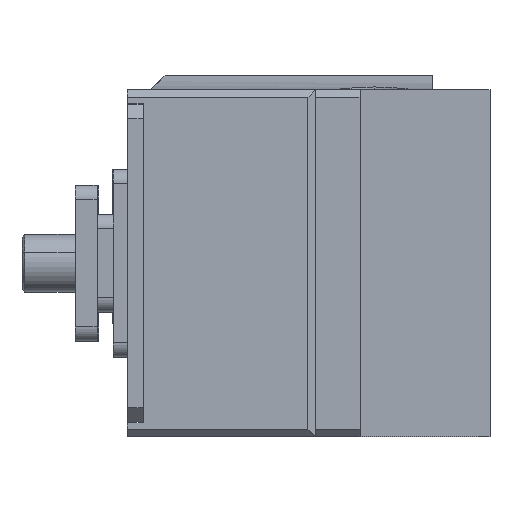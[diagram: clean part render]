
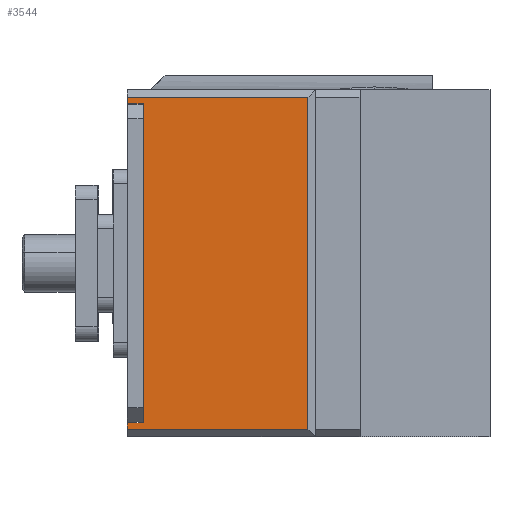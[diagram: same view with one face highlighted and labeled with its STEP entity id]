
A CAD part, left-side view. The second image highlights one B-rep face of the part: STEP entity #3544.
In plain terms, the highlighted planar face has unit normal (-1, 0, 0).
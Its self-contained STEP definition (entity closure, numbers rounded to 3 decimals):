
#584 = CARTESIAN_POINT ( 'NONE',  ( -3.75, 11.05, 13. ) ) ;
#1189 = ORIENTED_EDGE ( 'NONE', *, *, #9586, .F. ) ;
#1351 = CARTESIAN_POINT ( 'NONE',  ( -3.75, 11.05, 11.9 ) ) ;
#1928 = DIRECTION ( 'NONE',  ( 0., 0., -1. ) ) ;
#2066 = EDGE_LOOP ( 'NONE', ( #11386, #5757, #16089, #10275, #1189, #9652, #10346, #20484 ) ) ;
#2248 = CARTESIAN_POINT ( 'NONE',  ( -3.75, -11.05, 13. ) ) ;
#2361 = VERTEX_POINT ( 'NONE', #13925 ) ;
#3071 = FACE_OUTER_BOUND ( 'NONE', #2066, .T. ) ;
#3227 = VECTOR ( 'NONE', #11893, 1000. ) ;
#3544 = ADVANCED_FACE ( 'NONE', ( #3071 ), #16535, .F. ) ;
#3829 = DIRECTION ( 'NONE',  ( 0., -1., 0. ) ) ;
#4119 = CARTESIAN_POINT ( 'NONE',  ( -3.75, 11.5, 13. ) ) ;
#4136 = LINE ( 'NONE', #5025, #20677 ) ;
#5025 = CARTESIAN_POINT ( 'NONE',  ( -3.75, -12., 0.5 ) ) ;
#5351 = DIRECTION ( 'NONE',  ( 0., 0., -1. ) ) ;
#5387 = AXIS2_PLACEMENT_3D ( 'NONE', #18199, #8611, #19831 ) ;
#5757 = ORIENTED_EDGE ( 'NONE', *, *, #13771, .F. ) ;
#5902 = CARTESIAN_POINT ( 'NONE',  ( -3.75, 11.5, 13. ) ) ;
#6256 = VECTOR ( 'NONE', #8133, 1000. ) ;
#6261 = CARTESIAN_POINT ( 'NONE',  ( -3.75, 11.5, 0.5 ) ) ;
#6505 = CARTESIAN_POINT ( 'NONE',  ( -3.75, 11.05, 11.9 ) ) ;
#6514 = EDGE_CURVE ( 'NONE', #14299, #16978, #11985, .T. ) ;
#6661 = DIRECTION ( 'NONE',  ( 0., 1., 0. ) ) ;
#7159 = VERTEX_POINT ( 'NONE', #2248 ) ;
#7695 = EDGE_CURVE ( 'NONE', #19355, #10776, #4136, .T. ) ;
#7721 = VECTOR ( 'NONE', #5351, 1000. ) ;
#8133 = DIRECTION ( 'NONE',  ( 0., 0., 1. ) ) ;
#8225 = VECTOR ( 'NONE', #20118, 1000. ) ;
#8589 = CARTESIAN_POINT ( 'NONE',  ( -3.75, -12., 11.9 ) ) ;
#8611 = DIRECTION ( 'NONE',  ( 1., 0., 0. ) ) ;
#8823 = EDGE_CURVE ( 'NONE', #7159, #17449, #11980, .T. ) ;
#9256 = LINE ( 'NONE', #11529, #9955 ) ;
#9320 = VERTEX_POINT ( 'NONE', #1351 ) ;
#9586 = EDGE_CURVE ( 'NONE', #9320, #17449, #10377, .T. ) ;
#9652 = ORIENTED_EDGE ( 'NONE', *, *, #16732, .T. ) ;
#9861 = VECTOR ( 'NONE', #3829, 1000. ) ;
#9955 = VECTOR ( 'NONE', #1928, 1000. ) ;
#10131 = CARTESIAN_POINT ( 'NONE',  ( -3.75, -11.05, 11.9 ) ) ;
#10275 = ORIENTED_EDGE ( 'NONE', *, *, #8823, .T. ) ;
#10346 = ORIENTED_EDGE ( 'NONE', *, *, #6514, .T. ) ;
#10377 = LINE ( 'NONE', #8589, #9861 ) ;
#10534 = LINE ( 'NONE', #6505, #6256 ) ;
#10776 = VERTEX_POINT ( 'NONE', #6261 ) ;
#11386 = ORIENTED_EDGE ( 'NONE', *, *, #7695, .F. ) ;
#11529 = CARTESIAN_POINT ( 'NONE',  ( -3.75, -11.5, 13. ) ) ;
#11685 = CARTESIAN_POINT ( 'NONE',  ( -3.75, -11.05, 11.9 ) ) ;
#11742 = LINE ( 'NONE', #18394, #3227 ) ;
#11851 = VECTOR ( 'NONE', #13982, 1000. ) ;
#11893 = DIRECTION ( 'NONE',  ( 0., 1., 0. ) ) ;
#11980 = LINE ( 'NONE', #10131, #7721 ) ;
#11985 = LINE ( 'NONE', #18509, #8225 ) ;
#13422 = EDGE_CURVE ( 'NONE', #2361, #7159, #11742, .T. ) ;
#13698 = CARTESIAN_POINT ( 'NONE',  ( -3.75, -11.5, 0.5 ) ) ;
#13771 = EDGE_CURVE ( 'NONE', #2361, #19355, #9256, .T. ) ;
#13925 = CARTESIAN_POINT ( 'NONE',  ( -3.75, -11.5, 13. ) ) ;
#13982 = DIRECTION ( 'NONE',  ( 0., 0., 1. ) ) ;
#14299 = VERTEX_POINT ( 'NONE', #584 ) ;
#16089 = ORIENTED_EDGE ( 'NONE', *, *, #13422, .T. ) ;
#16118 = LINE ( 'NONE', #5902, #11851 ) ;
#16535 = PLANE ( 'NONE',  #5387 ) ;
#16732 = EDGE_CURVE ( 'NONE', #9320, #14299, #10534, .T. ) ;
#16978 = VERTEX_POINT ( 'NONE', #4119 ) ;
#17449 = VERTEX_POINT ( 'NONE', #11685 ) ;
#18199 = CARTESIAN_POINT ( 'NONE',  ( -3.75, -12., 13. ) ) ;
#18394 = CARTESIAN_POINT ( 'NONE',  ( -3.75, 0., 13. ) ) ;
#18509 = CARTESIAN_POINT ( 'NONE',  ( -3.75, 0., 13. ) ) ;
#19355 = VERTEX_POINT ( 'NONE', #13698 ) ;
#19446 = EDGE_CURVE ( 'NONE', #10776, #16978, #16118, .T. ) ;
#19831 = DIRECTION ( 'NONE',  ( 0., 0., -1. ) ) ;
#20118 = DIRECTION ( 'NONE',  ( 0., 1., 0. ) ) ;
#20484 = ORIENTED_EDGE ( 'NONE', *, *, #19446, .F. ) ;
#20677 = VECTOR ( 'NONE', #6661, 1000. ) ;
